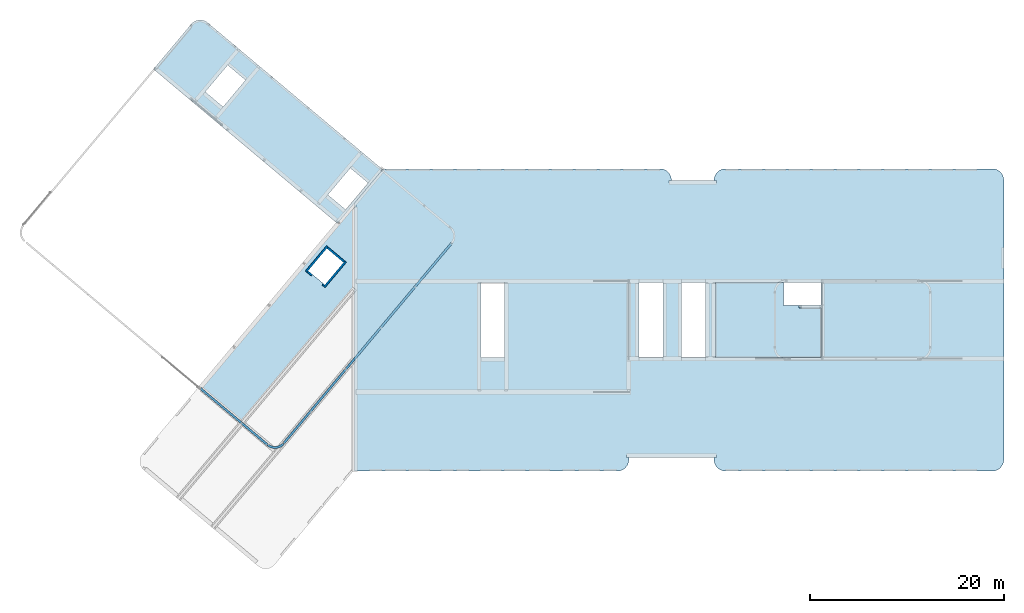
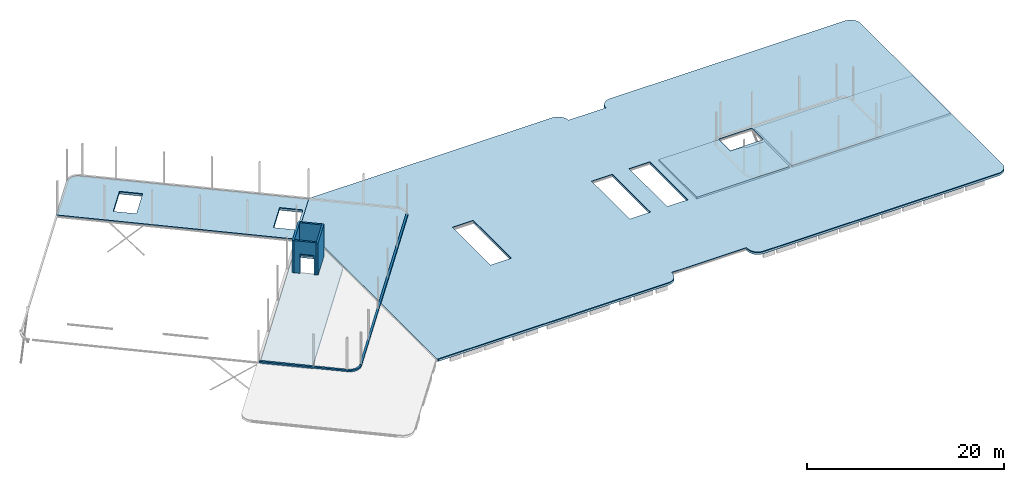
# One storey, part 9 of 11: 11 slabs, 7 walls, 12 openings.
"""IFC2X3 building model written with IfcOpenShell, lengths in millimetres."""

from ifc_helpers import new_model, entity, si_unit, converted_unit, derived_unit, direction, frame, frame_2d, origin, place, context, subcontext, project, spatial, polyline, circle_curve, parameter, trimmed, segment, composite_curve, rectangle, outline, extrude, boolean, material, layer, layer_set, layer_usage, type_object, element, save


model = new_model("IFC2X3")

# Units and contexts
model_context = context("Model", 3, precision=0.01, world=origin(), true_north=direction((6.123031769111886e-17, 1.0)))
body_context = subcontext(model_context, "Body", "Model", "MODEL_VIEW")
ifc_project = project(units=[si_unit("LENGTHUNIT", "METRE", prefix="MILLI"), si_unit("AREAUNIT", "SQUARE_METRE"), si_unit("VOLUMEUNIT", "CUBIC_METRE"), derived_unit("MASSDENSITYUNIT", [(si_unit("MASSUNIT", "GRAM", prefix="KILO"), 1), (si_unit("LENGTHUNIT", "METRE"), -3)]), si_unit("MASSUNIT", "GRAM", prefix="KILO"), converted_unit("PLANEANGLEUNIT", "DEGREE", entity("IfcPlaneAngleMeasure", 0.017453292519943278), si_unit("PLANEANGLEUNIT", "RADIAN"), dimensions=[0, 0, 0, 0, 0, 0, 0])], contexts=[model_context])

# Site, building, storey
site_placement = place(None, origin())
site = spatial("IfcSite", under=ifc_project, at=site_placement, Name="Default", CompositionType="ELEMENT")
building_placement = place(site_placement, origin())
building = spatial("IfcBuilding", under=site, at=building_placement, Name="AT constructie", CompositionType="ELEMENT")
storey_placement = place(building_placement, frame((0.0, 0.0, 7728.0)))
storey = spatial("IfcBuildingStorey", under=building, at=storey_placement, Name="02 tweede verdieping", CompositionType="ELEMENT", Elevation=7728.0)

# Slabs
ifc_material_1 = material(Name="f2_beton_prefab_gen")
ifc_layer_1 = layer(ifc_material_1, 260.0)
ifc_layer_set_1 = layer_set([ifc_layer_1], Name="Floor:NLRS_23_FL_kanaalplaatvloer 260_gen_AT")
ifc_layer_usage_1 = layer_usage(ifc_layer_set_1, "AXIS3", "POSITIVE", 0.0)
slab_type_1 = type_object("IfcSlabType", Name="NLRS_23_FL_kanaalplaatvloer 260_gen_AT", PredefinedType="FLOOR", material=ifc_layer_set_1)
slab_1_placement = place(storey_placement, origin())
element("IfcSlab", 1, at=slab_1_placement, inside=storey, type_object=slab_type_1, material=ifc_layer_usage_1, Name="Floor:NLRS_23_FL_kanaalplaatvloer 260_gen_AT", ObjectType="Floor:NLRS_23_FL_kanaalplaatvloer 260_gen_AT", PredefinedType="FLOOR", context=body_context, shape_type="SweptSolid", body=[
    extrude(outline(composite_curve([segment(polyline([(-8938.144923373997, -34311.356214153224), (-1054.1159961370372, -34311.356214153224)]), True, "CONTINUOUS"), segment(polyline([(-1054.1159961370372, -34311.356214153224), (2531.8550766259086, -31302.369209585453)]), True, "CONTINUOUS"), segment(polyline([(2531.8550766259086, -31302.369209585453), (2531.855076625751, -2961.356214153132)]), True, "CONTINUOUS"), segment(trimmed(circle_curve(frame_2d((1331.8550766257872, -2961.356214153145), x_axis=(1.0, 0.0)), 1200.000000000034), [parameter(0.0)], [parameter(89.99999999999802)], True, "PARAMETER"), True, "CONTINUOUS"), segment(polyline([(1331.8550766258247, -1761.3562141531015), (1331.8550766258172, -1987.8562141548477)]), True, "CONTINUOUS"), segment(polyline([(1331.8550766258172, -1987.8562141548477), (1071.85507662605, -1987.8562141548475)]), True, "CONTINUOUS"), segment(polyline([(1071.85507662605, -1987.8562141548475), (1071.85507662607, 2865.1437826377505)]), True, "CONTINUOUS"), segment(polyline([(1071.8550766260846, 2865.1437826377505), (1331.8550766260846, 2865.14378263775)]), True, "CONTINUOUS"), segment(polyline([(1331.8550766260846, 2865.14378263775), (1331.8550766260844, 2638.64378584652)]), True, "CONTINUOUS"), segment(trimmed(circle_curve(frame_2d((1331.8550766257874, 3838.6437858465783), x_axis=(0.0, -1.0)), 1200.000000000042), [parameter(0.0)], [parameter(89.99999999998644)], True, "PARAMETER"), True, "CONTINUOUS"), segment(polyline([(2531.855076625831, 3838.643785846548), (2531.855076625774, 31338.6437858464)]), True, "CONTINUOUS"), segment(trimmed(circle_curve(frame_2d((1331.8550766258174, 31338.643785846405), x_axis=(1.0, 0.0)), 1200.0000000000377), [parameter(0.0)], [parameter(89.99999999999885)], True, "PARAMETER"), True, "CONTINUOUS"), segment(polyline([(1331.8550766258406, 32538.64378584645), (-8938.144923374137, 32538.64378584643)]), True, "CONTINUOUS"), segment(polyline([(-8938.144923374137, 32538.64378584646), (-8938.144923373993, -34311.356214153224)]), True, "CONTINUOUS")], self_intersect=False)), frame((75608.23084526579, 40339.188431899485, -110.0), z_axis=(0.0, 0.0, -1.0), x_axis=(0.0, 1.0, 0.0)), (0.0, 0.0, 1.0), 260.00000000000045),
])
ifc_layer_usage_2 = layer_usage(ifc_layer_set_1, "AXIS3", "POSITIVE", 0.0)
slab_2_placement = place(storey_placement, origin())
element("IfcSlab", 2, at=slab_2_placement, inside=storey, type_object=slab_type_1, material=ifc_layer_usage_2, Name="Floor:NLRS_23_FL_kanaalplaatvloer 260_gen_AT", ObjectType="Floor:NLRS_23_FL_kanaalplaatvloer 260_gen_AT", PredefinedType="FLOOR", context=body_context, shape_type="SweptSolid", body=[
    extrude(outline(composite_curve([segment(polyline([(-3029.411764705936, -34200.5882343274), (4990.588235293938, -34200.5882343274)]), True, "CONTINUOUS"), segment(polyline([(4990.588235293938, -34200.5882343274), (4990.588235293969, -5920.588234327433)]), True, "CONTINUOUS"), segment(polyline([(4990.588235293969, -5920.588234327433), (8440.588235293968, -5920.588234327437)]), True, "CONTINUOUS"), segment(polyline([(8440.588235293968, -5920.588234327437), (8440.588235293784, 32649.411765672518)]), True, "CONTINUOUS"), segment(polyline([(8440.588235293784, 32649.411765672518), (-1829.411764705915, 32649.411765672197)]), True, "CONTINUOUS"), segment(trimmed(circle_curve(frame_2d((-1829.4117647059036, 31449.41176567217), x_axis=(0.0, 1.0)), 1200.0000000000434), [parameter(0.0)], [parameter(90.00000000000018)], True, "PARAMETER"), True, "CONTINUOUS"), segment(polyline([(-3029.4117647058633, 31449.41176567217), (-3029.411764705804, 3949.4117656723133)]), True, "CONTINUOUS"), segment(trimmed(circle_curve(frame_2d((-1829.4117647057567, 3949.4117656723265), x_axis=(-1.0, 0.0)), 1200.0000000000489), [parameter(0.0)], [parameter(89.99999999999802)], True, "PARAMETER"), True, "CONTINUOUS"), segment(polyline([(-1829.4117647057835, 2749.411765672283), (-1629.4117647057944, 2749.411765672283)]), True, "CONTINUOUS"), segment(polyline([(-1629.4117647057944, 2749.411765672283), (-1629.4117647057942, 2975.9117674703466)]), True, "CONTINUOUS"), segment(polyline([(-1629.4117647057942, 2975.9117674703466), (-1369.4117647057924, 2975.911767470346)]), True, "CONTINUOUS"), segment(polyline([(-1369.4117647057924, 2975.911767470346), (-1369.4117647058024, -6277.088244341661)]), True, "CONTINUOUS"), segment(polyline([(-1369.4117647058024, -6277.088244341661), (-1629.4117647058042, -6277.088244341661)]), True, "CONTINUOUS"), segment(polyline([(-1629.4117647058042, -6277.088244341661), (-1629.411764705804, -6050.5882343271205)]), True, "CONTINUOUS"), segment(polyline([(-1629.411764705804, -6050.5882343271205), (-1829.411764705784, -6050.5882343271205)]), True, "CONTINUOUS"), segment(trimmed(circle_curve(frame_2d((-1829.4117647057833, -7250.58823432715), x_axis=(0.0, 1.0)), 1200.0000000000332), [parameter(0.0)], [parameter(89.99999999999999)], True, "PARAMETER"), True, "CONTINUOUS"), segment(polyline([(-3029.411764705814, -7250.588234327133), (-3029.411764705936, -34200.5882343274)]), True, "CONTINUOUS")], self_intersect=False)), frame((75497.46286543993, 14700.45527323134, -110.0), z_axis=(0.0, 0.0, -1.0), x_axis=(0.0, 1.0, 0.0)), (0.0, 0.0, 1.0), 260.00000000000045),
])
ifc_layer_usage_3 = layer_usage(ifc_layer_set_1, "AXIS3", "POSITIVE", 0.0)
slab_3_placement = place(storey_placement, origin())
element("IfcSlab", 3, at=slab_3_placement, inside=storey, type_object=slab_type_1, material=ifc_layer_usage_3, Name="Floor:NLRS_23_FL_kanaalplaatvloer 260_gen_AT", ObjectType="Floor:NLRS_23_FL_kanaalplaatvloer 260_gen_AT", PredefinedType="FLOOR", context=body_context, shape_type="SweptSolid", body=[
    extrude(rectangle(XDim=7740.00000000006, YDim=18609.499999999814, at=frame_2d((-3.0240698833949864e-11, 0.0), x_axis=(1.0, 0.0))), frame((98842.12463111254, 27271.043508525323, -110.0), z_axis=(0.0, 0.0, -1.0), x_axis=(0.0, 1.0, 0.0)), (0.0, 0.0, 1.0), 260.00000000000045),
])
ifc_layer_usage_4 = layer_usage(ifc_layer_set_1, "AXIS3", "POSITIVE", 0.0)
slab_4_placement = place(storey_placement, origin())
element("IfcSlab", 4, at=slab_4_placement, inside=storey, type_object=slab_type_1, material=ifc_layer_usage_4, Name="Floor:NLRS_23_FL_kanaalplaatvloer 260_gen_AT", ObjectType="Floor:NLRS_23_FL_kanaalplaatvloer 260_gen_AT", PredefinedType="FLOOR", context=body_context, shape_type="SweptSolid", body=[
    extrude(outline(polyline([(-6456.249999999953, -14055.0), (4733.7500000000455, -14055.0), (4733.749999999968, -1180.0), (-3011.2499999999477, -1180.0), (-3011.2499999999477, 1270.0), (4733.74999999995, 1270.0), (4733.749999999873, 13965.0), (-6456.249999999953, 13965.0), (-6456.249999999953, -14055.0)])), frame((55351.87463111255, 26407.293508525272, -110.0), z_axis=(0.0, 0.0, -1.0), x_axis=(0.0, 1.0, 0.0)), (0.0, 0.0, 1.0), 260.00000000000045),
])
ifc_layer_usage_5 = layer_usage(ifc_layer_set_1, "AXIS3", "POSITIVE", 0.0)
slab_5_placement = place(storey_placement, origin())
element("IfcSlab", 5, at=slab_5_placement, inside=storey, type_object=slab_type_1, material=ifc_layer_usage_5, Name="Floor:NLRS_23_FL_kanaalplaatvloer 260_gen_AT", ObjectType="Floor:NLRS_23_FL_kanaalplaatvloer 260_gen_AT", PredefinedType="FLOOR", context=body_context, shape_type="SweptSolid", body=[
    extrude(outline(polyline([(-4562.7499999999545, -6652.1250000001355), (3177.2500000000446, -6652.1250000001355), (3177.250000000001, 401.8750000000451), (821.2499999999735, 401.8750000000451), (821.2499999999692, 2001.8750000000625), (564.2499999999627, 2001.8750000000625), (564.2499999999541, 4248.375000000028), (-4562.7499999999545, 4248.375000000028), (-4562.7499999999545, -6652.1250000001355)])), frame((85028.99963111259, 27963.793508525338, -110.0), z_axis=(0.0, 0.0, -1.0), x_axis=(0.0, 1.0, 0.0)), (0.0, 0.0, 1.0), 260.00000000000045),
])

# Slab, openings
ifc_layer_usage_6 = layer_usage(ifc_layer_set_1, "AXIS3", "POSITIVE", 0.0)
slab_6_placement = place(storey_placement, frame((69576.87463111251, 23401.043508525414, -370.0)))
slab_6 = element("IfcSlab", 6, at=slab_6_placement, inside=storey, type_object=slab_type_1, material=ifc_layer_usage_6, Name="Floor:NLRS_23_FL_kanaalplaatvloer 260_gen_AT", ObjectType="Floor:NLRS_23_FL_kanaalplaatvloer 260_gen_AT", PredefinedType="FLOOR", context=body_context, shape_type="SweptSolid", body=[
    extrude(rectangle(XDim=7739.999999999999, YDim=8539.999999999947, at=frame_2d((0.0, 0.0), x_axis=(0.0, 1.0))), frame((4270.0, 3870.0, 260.0), z_axis=(0.0, 0.0, -1.0), x_axis=(-1.0, 0.0, 0.0)), (0.0, 0.0, 1.0), 260.00000000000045),
])
opening_1_placement = place(storey_placement, frame((69576.87463111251, 23401.043508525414, -370.0)))
element("IfcOpeningElement", 7, at=opening_1_placement, cuts=slab_6, ObjectType="Opening", context=body_context, shape_type="SweptSolid", body=[
    extrude(rectangle(XDim=7749.999999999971, YDim=2449.9999999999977, at=frame_2d((2120.0, 0.0), x_axis=(0.0, -1.0))), frame((4270.0, 3870.0, 260.0), z_axis=(0.0, 0.0, -1.0), x_axis=(-1.0, 0.0, 0.0)), (0.0, 0.0, 1.0), 260.00000000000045),
])
opening_2_placement = place(storey_placement, frame((69576.87463111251, 23401.043508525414, -370.0)))
element("IfcOpeningElement", 8, at=opening_2_placement, cuts=slab_6, ObjectType="Opening", context=body_context, shape_type="SweptSolid", body=[
    extrude(rectangle(XDim=7749.999999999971, YDim=2449.9999999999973, at=frame_2d((-2280.0, 0.0), x_axis=(0.0, -1.0))), frame((4270.0, 3870.0, 260.0), z_axis=(0.0, 0.0, -1.0), x_axis=(-1.0, 0.0, 0.0)), (0.0, 0.0, 1.0), 260.00000000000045),
])

ifc_layer_usage_7 = layer_usage(ifc_layer_set_1, "AXIS3", "POSITIVE", 0.0)
slab_7_placement = place(storey_placement, origin())
slab_7 = element("IfcSlab", 9, at=slab_7_placement, inside=storey, type_object=slab_type_1, material=ifc_layer_usage_7, Name="Floor:NLRS_23_FL_kanaalplaatvloer 260_gen_AT", ObjectType="Floor:NLRS_23_FL_kanaalplaatvloer 260_gen_AT", PredefinedType="FLOOR", context=body_context, shape_type="SweptSolid", body=[
    boolean("DIFFERENCE", boolean("DIFFERENCE", extrude(outline(composite_curve([segment(polyline([(-8892.069876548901, -3014.3491272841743), (14532.930123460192, -3014.349127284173)]), True, "CONTINUOUS"), segment(polyline([(14532.930123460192, -3014.349127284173), (14532.930123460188, 3980.6508727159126)]), True, "CONTINUOUS"), segment(polyline([(14532.930123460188, 3980.6508727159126), (-10086.895185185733, 3980.6508727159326)]), True, "CONTINUOUS"), segment(polyline([(-10086.895185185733, 3980.6508727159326), (-10086.895185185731, -1932.603490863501)]), True, "CONTINUOUS"), segment(trimmed(circle_curve(frame_2d((-8892.73608806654, -1814.3493122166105), x_axis=(-0.9951325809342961, -0.09854514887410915)), 1199.9999999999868), [parameter(0.0)], [parameter(84.37640942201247)], True, "PARAMETER"), True, "CONTINUOUS")], self_intersect=False)), frame((30857.26688643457, 49919.57521599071, -110.0), z_axis=(0.0, 0.0, -1.0), x_axis=(0.7660444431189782, -0.6427876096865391, 0.0)), (0.0, 0.0, 1.0), 260.00000000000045), extrude(rectangle(XDim=3600.000006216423, YDim=2399.9999573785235, at=frame_2d((-1.261923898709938e-11, 7.121805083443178e-07), x_axis=(1.0, 0.0))), frame((27814.31878271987, 51414.68233204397, -370.0), z_axis=(0.0, 0.0, 1.0), x_axis=(0.6427876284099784, 0.7660444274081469, 0.0)), (0.0, 0.0, 1.0), 260.0000000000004)), extrude(rectangle(XDim=3600.000006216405, YDim=2399.999957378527, at=frame_2d((-5.343281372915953e-12, 7.121752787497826e-07), x_axis=(1.0, 0.0))), frame((40473.20309495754, 40792.61708366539, -370.0), z_axis=(0.0, 0.0, 1.0), x_axis=(0.6427876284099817, 0.7660444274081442, 0.0)), (0.0, 0.0, 1.0), 260.0000000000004)),
])
opening_3_placement = place(slab_7_placement, origin())
element("IfcOpeningElement", 10, at=opening_3_placement, cuts=slab_7, Name="Floor:NLRS_23_FL_kanaalplaatvloer 260_gen_AT", ObjectType="Opening", context=body_context, shape_type="SweptSolid", body=[
    extrude(rectangle(XDim=2399.9999602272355, YDim=3600.000006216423, at=frame_2d((-7.12175506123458e-07, -8.29913915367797e-12), x_axis=(1.0, 0.0))), frame((27814.31878271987, 51414.68233204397, -370.0), z_axis=(0.0, 0.0, 1.0), x_axis=(-0.7660444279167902, 0.6427876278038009, 0.0)), (0.0, 0.0, 1.0), 260.00000000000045),
])
opening_4_placement = place(slab_7_placement, origin())
element("IfcOpeningElement", 11, at=opening_4_placement, cuts=slab_7, Name="Floor:NLRS_23_FL_kanaalplaatvloer 260_gen_AT", ObjectType="Opening", context=body_context, shape_type="SweptSolid", body=[
    extrude(rectangle(XDim=2399.9999602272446, YDim=3600.000006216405, at=frame_2d((-7.121834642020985e-07, -9.322320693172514e-12), x_axis=(1.0, 0.0))), frame((40473.20309495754, 40792.61708366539, -370.0), z_axis=(0.0, 0.0, 1.0), x_axis=(-0.7660444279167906, 0.6427876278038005, 0.0)), (0.0, 0.0, 1.0), 260.00000000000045),
])

# Slab
ifc_layer_usage_8 = layer_usage(ifc_layer_set_1, "AXIS3", "POSITIVE", 0.0)
slab_8_placement = place(storey_placement, origin())
element("IfcSlab", 12, at=slab_8_placement, inside=storey, type_object=slab_type_1, material=ifc_layer_usage_8, Name="Floor:NLRS_23_FL_kanaalplaatvloer 260_gen_AT", ObjectType="Floor:NLRS_23_FL_kanaalplaatvloer 260_gen_AT", PredefinedType="FLOOR", context=body_context, shape_type="SweptSolid", body=[
    extrude(outline(polyline([(-4562.74999999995, -6652.1250000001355), (3177.2500000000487, -6652.1250000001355), (3177.2500000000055, 401.8750000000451), (821.249999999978, 401.8750000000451), (821.2499999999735, 2001.8750000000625), (564.249999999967, 2001.8750000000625), (564.2499999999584, 4248.375000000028), (-4562.74999999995, 4248.375000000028), (-4562.74999999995, -6652.1250000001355)])), frame((85028.99963111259, 27963.793508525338, -110.0), z_axis=(0.0, 0.0, -1.0), x_axis=(0.0, 1.0, 0.0)), (0.0, 0.0, 1.0), 260.00000000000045),
])

# Slab, opening
ifc_layer_usage_9 = layer_usage(ifc_layer_set_1, "AXIS3", "POSITIVE", 0.0)
slab_9_placement = place(storey_placement, origin())
slab_9 = element("IfcSlab", 13, at=slab_9_placement, inside=storey, type_object=slab_type_1, material=ifc_layer_usage_9, Name="Floor:NLRS_23_FL_kanaalplaatvloer 260_gen_AT", ObjectType="Floor:NLRS_23_FL_kanaalplaatvloer 260_gen_AT", PredefinedType="FLOOR", context=body_context, shape_type="SweptSolid", body=[
    boolean("DIFFERENCE", extrude(outline(polyline([(-12273.786335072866, -6777.593423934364), (-3880.6562891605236, -6777.593423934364), (9811.140889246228, 4711.188538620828), (6343.301734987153, 8843.998309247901), (-12273.786335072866, -6777.593423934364)])), frame((34219.28120717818, 26653.76002291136, -110.0), z_axis=(0.0, 0.0, -1.0), x_axis=(0.0, -1.0, 0.0)), (0.0, 0.0, 1.0), 260.00000000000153), extrude(rectangle(XDim=3010.0000000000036, YDim=2260.0000000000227, at=frame_2d((4.092726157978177e-12, -5.002220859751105e-12), x_axis=(1.0, 0.0))), frame((38179.589407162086, 32771.28940645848, -370.0), z_axis=(0.0, 0.0, 1.0), x_axis=(0.6427876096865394, 0.766044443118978, 0.0)), (0.0, 0.0, 1.0), 260.00000000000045)),
])
opening_5_placement = place(slab_9_placement, origin())
element("IfcOpeningElement", 14, at=opening_5_placement, cuts=slab_9, Name="Floor:NLRS_23_FL_kanaalplaatvloer 260_gen_AT", ObjectType="Opening", context=body_context, shape_type="SweptSolid", body=[
    extrude(rectangle(XDim=2259.9999999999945, YDim=3010.0000000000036, at=frame_2d((6.139089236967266e-12, -4.547473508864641e-13), x_axis=(1.0, 0.0))), frame((38179.589407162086, 32771.28940645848, -370.0), z_axis=(0.0, 0.0, 1.0), x_axis=(-0.7660444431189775, 0.64278760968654, 0.0)), (0.0, 0.0, 1.0), 260.00000000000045),
])

# Slab, openings
ifc_material_2 = material(Name="f2_beton ihwg_gen")
ifc_layer_2 = layer(ifc_material_2, 60.0)
ifc_layer_set_2 = layer_set([ifc_layer_2], Name="Floor:NLRS_23_FL_gewapende druklaag  beton_60_gen_AT")
ifc_layer_usage_10 = layer_usage(ifc_layer_set_2, "AXIS3", "POSITIVE", 0.0)
slab_type_2 = type_object("IfcSlabType", Name="NLRS_23_FL_gewapende druklaag  beton_60_gen_AT", PredefinedType="FLOOR", material=ifc_layer_set_2)
slab_10_placement = place(storey_placement, frame((41146.87463111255, 11671.043508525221, -110.0)))
slab_10 = element("IfcSlab", 15, at=slab_10_placement, inside=storey, type_object=slab_type_2, material=ifc_layer_usage_10, Name="Floor:NLRS_23_FL_gewapende druklaag  beton_60_gen_AT", ObjectType="Floor:NLRS_23_FL_gewapende druklaag  beton_60_gen_AT", PredefinedType="FLOOR", context=body_context, shape_type="SweptSolid", body=[
    extrude(outline(composite_curve([segment(polyline([(30536.824088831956, 15600.0), (2000.0, 15600.0)]), True, "CONTINUOUS"), segment(trimmed(circle_curve(frame_2d((2000.0, 14400.0), x_axis=(-1.0, 0.0)), 1200.0000000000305), [parameter(270.00000000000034)], [parameter(359.9999999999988)], True, "PARAMETER"), True, "CONTINUOUS"), segment(polyline([(800.0, 14400.0), (-3600.0, 14400.0)]), True, "CONTINUOUS"), segment(trimmed(circle_curve(frame_2d((-4800.0, 14400.0), x_axis=(-1.0, 0.0)), 1200.0000000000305), [parameter(180.00000000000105)], [parameter(269.9999999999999)], True, "PARAMETER"), True, "CONTINUOUS"), segment(polyline([(-4800.0, 15600.0), (-32300.0, 15600.0)]), True, "CONTINUOUS"), segment(trimmed(circle_curve(frame_2d((-32300.0, 14400.0), x_axis=(-1.0, 0.0)), 1200.0000000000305), [parameter(269.9999999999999)], [parameter(0.0)], True, "PARAMETER"), True, "CONTINUOUS"), segment(polyline([(-33500.0, 14400.0), (-33500.0, -14400.0)]), True, "CONTINUOUS"), segment(trimmed(circle_curve(frame_2d((-32300.0, -14400.0), x_axis=(-1.0, 0.0)), 1200.0000000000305), [parameter(359.99999999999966)], [parameter(89.99999999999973)], True, "PARAMETER"), True, "CONTINUOUS"), segment(polyline([(-32300.0, -15600.0), (-4800.0, -15600.0)]), True, "CONTINUOUS"), segment(trimmed(circle_curve(frame_2d((-4800.0, -14400.0), x_axis=(-1.0, 0.0)), 1200.0000000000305), [parameter(90.00000000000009)], [parameter(180.00000000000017)], True, "PARAMETER"), True, "CONTINUOUS"), segment(polyline([(-3600.0, -14400.0), (-3600.0, -14200.0)]), True, "CONTINUOUS"), segment(polyline([(-3600.0, -14200.0), (5200.0, -14200.0)]), True, "CONTINUOUS"), segment(polyline([(5200.0, -14200.0), (5200.0, -14400.0)]), True, "CONTINUOUS"), segment(trimmed(circle_curve(frame_2d((6400.0, -14400.0), x_axis=(-1.0, 0.0)), 1200.0000000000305), [parameter(3.5622212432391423e-13)], [parameter(90.00000000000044)], True, "PARAMETER"), True, "CONTINUOUS"), segment(polyline([(6400.0, -15600.0), (33500.0, -15600.0)]), True, "CONTINUOUS"), segment(polyline([(33500.0, -15600.0), (33500.0, 12068.624462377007)]), True, "CONTINUOUS"), segment(polyline([(33500.0, 12068.624462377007), (30536.824088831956, 15600.0)]), True, "CONTINUOUS")], self_intersect=False)), frame((33500.0, 15600.0, 60.0), z_axis=(0.0, 0.0, -1.0), x_axis=(-1.0, 0.0, 0.0)), (0.0, 0.0, 1.0), 60.00000000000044),
])
opening_6_placement = place(slab_10_placement, origin())
element("IfcOpeningElement", 16, at=opening_6_placement, cuts=slab_10, Name="Floor:NLRS_23_FL_gewapende druklaag  beton_60_gen_AT", ObjectType="Opening", context=body_context, shape_type="SweptSolid", body=[
    extrude(rectangle(XDim=7740.0000000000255, YDim=2449.9999999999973, at=frame_2d((0.0, 4.320099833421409e-12), x_axis=(1.0, 0.0))), frame((34980.0, 15600.0, 60.0), z_axis=(0.0, 0.0, 1.0), x_axis=(0.0, 1.0, 0.0)), (0.0, 0.0, -1.0), 60.0),
])
opening_7_placement = place(slab_10_placement, origin())
element("IfcOpeningElement", 17, at=opening_7_placement, cuts=slab_10, Name="Floor:NLRS_23_FL_gewapende druklaag  beton_60_gen_AT", ObjectType="Opening", context=body_context, shape_type="SweptSolid", body=[
    extrude(rectangle(XDim=7740.0000000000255, YDim=2449.9999999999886, at=frame_2d((0.0, 4.320099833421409e-12), x_axis=(1.0, 0.0))), frame((30580.0, 15600.0, 60.0), z_axis=(0.0, 0.0, 1.0), x_axis=(0.0, -1.0, 0.0)), (0.0, 0.0, -1.0), 60.0),
])
opening_8_placement = place(slab_10_placement, origin())
element("IfcOpeningElement", 18, at=opening_8_placement, cuts=slab_10, Name="Floor:NLRS_23_FL_gewapende druklaag  beton_60_gen_AT", ObjectType="Opening", context=body_context, shape_type="SweptSolid", body=[
    extrude(outline(polyline([(770.0, 215.499999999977), (793.0, 215.499999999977), (793.0, 1815.4999999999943), (-1563.0, 1815.4999999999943), (-1563.0, -2031.0), (770.0, -2031.0), (770.0, 215.499999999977)])), frame((46099.50000000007, 17907.0, 60.0), z_axis=(0.0, 0.0, -1.0), x_axis=(0.0, -1.0, 0.0)), (0.0, 0.0, 1.0), 60.0),
])
opening_9_placement = place(slab_10_placement, origin())
element("IfcOpeningElement", 19, at=opening_9_placement, cuts=slab_10, Name="Floor:NLRS_23_FL_gewapende druklaag  beton_60_gen_AT", ObjectType="Opening", context=body_context, shape_type="SweptSolid", body=[
    extrude(rectangle(XDim=7744.999999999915, YDim=2449.9999999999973, at=frame_2d((-2.2737367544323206e-12, 0.0), x_axis=(1.0, 0.0))), frame((14250.0, 15597.500000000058, 60.0), z_axis=(0.0, 0.0, -1.0), x_axis=(0.0, -1.0, 0.0)), (0.0, 0.0, 1.0), 60.0),
])

ifc_layer_usage_11 = layer_usage(ifc_layer_set_2, "AXIS3", "POSITIVE", 0.0)
slab_11_placement = place(storey_placement, origin())
slab_11 = element("IfcSlab", 20, at=slab_11_placement, inside=storey, type_object=slab_type_2, material=ifc_layer_usage_11, Name="Floor:NLRS_23_FL_gewapende druklaag  beton_60_gen_AT", ObjectType="Floor:NLRS_23_FL_gewapende druklaag  beton_60_gen_AT", PredefinedType="FLOOR", context=body_context, shape_type="SweptSolid", body=[
    boolean("DIFFERENCE", boolean("DIFFERENCE", extrude(outline(composite_curve([segment(polyline([(-7259.195781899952, -2778.91521214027), (16315.804218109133, -2778.9152121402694)]), True, "CONTINUOUS"), segment(polyline([(16315.804218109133, -2778.9152121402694), (16315.804218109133, 4476.084787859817)]), True, "CONTINUOUS"), segment(polyline([(16315.804218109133, 4476.084787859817), (-8459.19578189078, 4476.084787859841)]), True, "CONTINUOUS"), segment(polyline([(-8459.195781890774, 4476.084787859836), (-8459.19578189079, -1697.1695757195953)]), True, "CONTINUOUS"), segment(polyline([(-8459.19578189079, -1697.1695757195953), (-8454.021090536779, -1697.169575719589)]), True, "CONTINUOUS"), segment(trimmed(circle_curve(frame_2d((-7259.861993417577, -1578.9153970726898), x_axis=(-0.9951325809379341, -0.09854514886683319)), 1199.999999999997), [parameter(0.0)], [parameter(84.37640942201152)], True, "PARAMETER"), True, "CONTINUOUS")], self_intersect=False)), frame((29757.746763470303, 51149.519294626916, -50.0), z_axis=(0.0, 0.0, -1.0), x_axis=(0.7660444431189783, -0.6427876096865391, 0.0)), (0.0, 0.0, 1.0), 60.000000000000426), extrude(rectangle(XDim=3600.000006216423, YDim=2399.9999573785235, at=frame_2d((-1.261923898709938e-11, 7.121805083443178e-07), x_axis=(1.0, 0.0))), frame((27814.31878271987, 51414.68233204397, -110.0), z_axis=(0.0, 0.0, 1.0), x_axis=(0.6427876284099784, 0.7660444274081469, 0.0)), (0.0, 0.0, 1.0), 60.000000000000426)), extrude(rectangle(XDim=3600.000006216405, YDim=2399.999957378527, at=frame_2d((-5.343281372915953e-12, 7.121752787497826e-07), x_axis=(1.0, 0.0))), frame((40473.20309495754, 40792.61708366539, -110.0), z_axis=(0.0, 0.0, 1.0), x_axis=(0.6427876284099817, 0.7660444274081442, 0.0)), (0.0, 0.0, 1.0), 60.000000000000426)),
])
opening_10_placement = place(slab_11_placement, origin())
element("IfcOpeningElement", 21, at=opening_10_placement, cuts=slab_11, Name="Floor:NLRS_23_FL_gewapende druklaag  beton_60_gen_AT", ObjectType="Opening", context=body_context, shape_type="SweptSolid", body=[
    extrude(rectangle(XDim=2399.9999602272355, YDim=3600.000006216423, at=frame_2d((-7.12175506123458e-07, -8.29913915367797e-12), x_axis=(1.0, 0.0))), frame((27814.31878271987, 51414.68233204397, -110.0), z_axis=(0.0, 0.0, 1.0), x_axis=(-0.7660444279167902, 0.6427876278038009, 0.0)), (0.0, 0.0, 1.0), 60.00000000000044),
])
opening_11_placement = place(slab_11_placement, origin())
element("IfcOpeningElement", 22, at=opening_11_placement, cuts=slab_11, Name="Floor:NLRS_23_FL_gewapende druklaag  beton_60_gen_AT", ObjectType="Opening", context=body_context, shape_type="SweptSolid", body=[
    extrude(rectangle(XDim=2399.9999602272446, YDim=3600.000006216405, at=frame_2d((-7.121834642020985e-07, -9.322320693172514e-12), x_axis=(1.0, 0.0))), frame((40473.20309495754, 40792.61708366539, -110.0), z_axis=(0.0, 0.0, 1.0), x_axis=(-0.7660444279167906, 0.6427876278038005, 0.0)), (0.0, 0.0, 1.0), 60.00000000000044),
])

# Walls
ifc_material_3 = material(Name="f1_kalkzandsteen_CS20")
ifc_layer_3 = layer(ifc_material_3, 214.0)
ifc_layer_set_3 = layer_set([ifc_layer_3], Name="Basic Wall:NLRS_22_WA_kalkzandsteen 214_CS20_gen_AT")
ifc_layer_usage_12 = layer_usage(ifc_layer_set_3, "AXIS2", "POSITIVE", -107.0)
wall_type_1 = type_object("IfcWallType", Name="NLRS_22_WA_kalkzandsteen 214_CS20_gen_AT", PredefinedType="STANDARD", material=ifc_layer_set_3)
wall_1_placement = place(storey_placement, frame((38336.94433207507, 34883.24807736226, -50.0), z_axis=(0.0, 0.0, 1.0), x_axis=(-0.6427876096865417, -0.7660444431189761, 0.0)))
element("IfcWallStandardCase", 23, at=wall_1_placement, inside=storey, type_object=wall_type_1, material=ifc_layer_usage_12, Name="Basic Wall:NLRS_22_WA_kalkzandsteen 214_CS20_gen_AT", ObjectType="Basic Wall:NLRS_22_WA_kalkzandsteen 214_CS20_gen_AT", context=body_context, shape_type="SweptSolid", body=[
    extrude(rectangle(XDim=3438.0000000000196, YDim=214.00000000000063, at=frame_2d((1719.0000000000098, 5.613287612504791e-13), x_axis=(-1.0, 0.0))), origin(), (0.0, 0.0, 1.0), 3994.999999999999),
])
ifc_layer_usage_13 = layer_usage(ifc_layer_set_3, "AXIS2", "NEGATIVE", 107.0)
wall_2_placement = place(storey_placement, frame((40232.13828435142, 33292.991530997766, -50.0), z_axis=(0.0, 0.0, 1.0), x_axis=(-0.6427876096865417, -0.7660444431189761, 0.0)))
element("IfcWallStandardCase", 24, at=wall_2_placement, inside=storey, type_object=wall_type_1, material=ifc_layer_usage_13, Name="Basic Wall:NLRS_22_WA_kalkzandsteen 214_CS20_gen_AT", ObjectType="Basic Wall:NLRS_22_WA_kalkzandsteen 214_CS20_gen_AT", context=body_context, shape_type="SweptSolid", body=[
    extrude(rectangle(XDim=3438.0000000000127, YDim=214.00000000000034, at=frame_2d((1719.0000000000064, 6.963318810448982e-13), x_axis=(-1.0, 0.0))), origin(), (0.0, 0.0, 1.0), 3994.999999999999),
])
ifc_layer_usage_14 = layer_usage(ifc_layer_set_3, "AXIS2", "NEGATIVE", 107.0)
wall_3_placement = place(storey_placement, frame((38350.13281325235, 34732.50304771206, -50.0), z_axis=(0.0, 0.0, 1.0), x_axis=(0.7660444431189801, -0.6427876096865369, 0.0)))
element("IfcWallStandardCase", 25, at=wall_3_placement, inside=storey, type_object=wall_type_1, material=ifc_layer_usage_14, Name="Basic Wall:NLRS_22_WA_kalkzandsteen 214_CS20_gen_AT", ObjectType="Basic Wall:NLRS_22_WA_kalkzandsteen 214_CS20_gen_AT", context=body_context, shape_type="SweptSolid", body=[
    extrude(rectangle(XDim=2259.9999999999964, YDim=214.00000000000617, at=frame_2d((1129.9999999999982, 7.247535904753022e-13), x_axis=(-1.0, 0.0))), origin(), (0.0, 0.0, 1.0), 3994.999999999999),
])

# Wall, opening
ifc_layer_usage_15 = layer_usage(ifc_layer_set_3, "AXIS2", "POSITIVE", -107.0)
wall_4_placement = place(storey_placement, frame((36277.78555962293, 32262.775763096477, -50.0), z_axis=(0.0, 0.0, 1.0), x_axis=(0.7660444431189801, -0.6427876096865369, 0.0)))
wall_4 = element("IfcWallStandardCase", 26, at=wall_4_placement, inside=storey, type_object=wall_type_1, material=ifc_layer_usage_15, Name="Basic Wall:NLRS_22_WA_kalkzandsteen 214_CS20_gen_AT", ObjectType="Basic Wall:NLRS_22_WA_kalkzandsteen 214_CS20_gen_AT", context=body_context, shape_type="SweptSolid", body=[
    extrude(rectangle(XDim=2260.0000000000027, YDim=214.00000000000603, at=frame_2d((1129.999999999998, -2.3518964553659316e-12), x_axis=(-1.0, 0.0))), origin(), (0.0, 0.0, 1.0), 3994.999999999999),
])
opening_12_placement = place(wall_4_placement, frame((-7052.2835219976, -48033.631157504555, -3814.0), z_axis=(0.0, 0.0, 1.0), x_axis=(0.7660444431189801, 0.6427876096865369, 0.0)))
element("IfcOpeningElement", 27, at=opening_12_placement, cuts=wall_4, Name="Basic Wall:NLRS_22_WA_kalkzandsteen 214_CS20_gen_AT", ObjectType="Opening", context=body_context, shape_type="SweptSolid", body=[
    extrude(rectangle(XDim=2400.0, YDim=1449.9999999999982, at=frame_2d((1.4210854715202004e-12, 0.0), x_axis=(0.0, 1.0))), frame((36244.40785535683, 30161.663693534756, 5014.0), z_axis=(0.6427876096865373, 0.7660444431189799, 0.0), x_axis=(0.7660444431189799, -0.6427876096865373, 0.0)), (0.0, 0.0, 1.0), 3048.0),
])

# Walls
ifc_layer_4 = layer(ifc_material_2, 220.0)
ifc_layer_set_4 = layer_set([ifc_layer_4], Name="Basic Wall:NLRS_22_WA_beton opstort ihw 220_gen_AT")
ifc_layer_usage_16 = layer_usage(ifc_layer_set_4, "AXIS2", "NEGATIVE", 110.0)
wall_type_2 = type_object("IfcWallType", Name="NLRS_22_WA_beton opstort ihw 220_gen_AT", PredefinedType="STANDARD", material=ifc_layer_set_4)
wall_5_placement = place(storey_placement, frame((25223.876559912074, 20215.584051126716, -50.0), z_axis=(0.0, 0.0, 1.0), x_axis=(0.7660444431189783, -0.642787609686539, 0.0)))
element("IfcWallStandardCase", 28, at=wall_5_placement, inside=storey, type_object=wall_type_2, material=ifc_layer_usage_16, Name="Basic Wall:NLRS_22_WA_beton opstort ihw 220_gen_AT", ObjectType="Basic Wall:NLRS_22_WA_beton opstort ihw 220_gen_AT", context=body_context, shape_type="SweptSolid", body=[
    extrude(outline(polyline([(9112.499999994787, -110.0), (9108.573419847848, 110.0), (0.0, 110.0), (0.0, -110.0), (9112.499999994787, -110.0)])), origin(), (0.0, 0.0, 1.0), 200.0),
])
ifc_layer_usage_17 = layer_usage(ifc_layer_set_4, "AXIS2", "POSITIVE", -110.0)
wall_6_placement = place(storey_placement, frame((33792.22070538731, 14488.348946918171, -50.0), z_axis=(0.0, 0.0, 1.0), x_axis=(-0.17364817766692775, 0.9848077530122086, 0.0)))
element("IfcWallStandardCase", 29, at=wall_6_placement, inside=storey, type_object=wall_type_2, material=ifc_layer_usage_17, Name="Basic Wall:NLRS_22_WA_beton opstort ihw 220_gen_AT", ObjectType="Basic Wall:NLRS_22_WA_beton opstort ihw 220_gen_AT", context=body_context, shape_type="SweptSolid", body=[
    extrude(outline(composite_curve([segment(trimmed(circle_curve(frame_2d((937.817804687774, 712.712592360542), x_axis=(1.0, 0.0)), 1287.9055454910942), [parameter(131.95359427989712)], [parameter(217.23371325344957)], True, "PARAMETER"), True, "CONTINUOUS"), segment(polyline([(-87.57914326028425, -66.55744635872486), (84.52495325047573, 70.59612023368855)]), True, "CONTINUOUS"), segment(trimmed(circle_curve(frame_2d((937.817804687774, 712.712592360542), x_axis=(1.0, 0.0)), 1067.9055454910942), [parameter(132.14542973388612)], [parameter(216.9620440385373)], True, "PARAMETER"), False, "CONTINUOUS"), segment(polyline([(221.23746448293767, 1504.5047810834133), (76.8162554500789, 1670.5106015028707)]), True, "CONTINUOUS")], self_intersect=False)), origin(), (0.0, 0.0, 1.0), 200.0),
])
ifc_layer_usage_18 = layer_usage(ifc_layer_set_4, "AXIS2", "NEGATIVE", 110.0)
wall_7_placement = place(storey_placement, frame((33788.71006446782, 14484.36454396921, -50.0), z_axis=(0.0, 0.0, 1.0), x_axis=(0.6427876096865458, 0.7660444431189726, 0.0)))
element("IfcWallStandardCase", 30, at=wall_7_placement, inside=storey, type_object=wall_type_2, material=ifc_layer_usage_18, Name="Basic Wall:NLRS_22_WA_beton opstort ihw 220_gen_AT", ObjectType="Basic Wall:NLRS_22_WA_beton opstort ihw 220_gen_AT", context=body_context, shape_type="SweptSolid", body=[
    extrude(outline(polyline([(27074.999999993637, -110.0), (27069.43934672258, 110.0), (5.560653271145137, 110.0), (0.0, -110.0), (27074.999999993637, -110.0)])), origin(), (0.0, 0.0, 1.0), 200.0),
])

save(model, "model.ifc")
